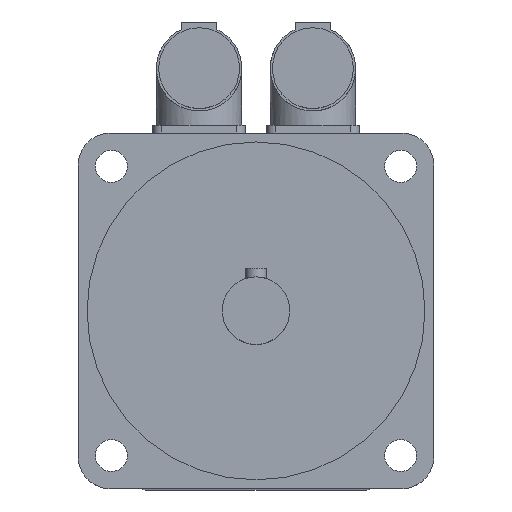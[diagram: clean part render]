
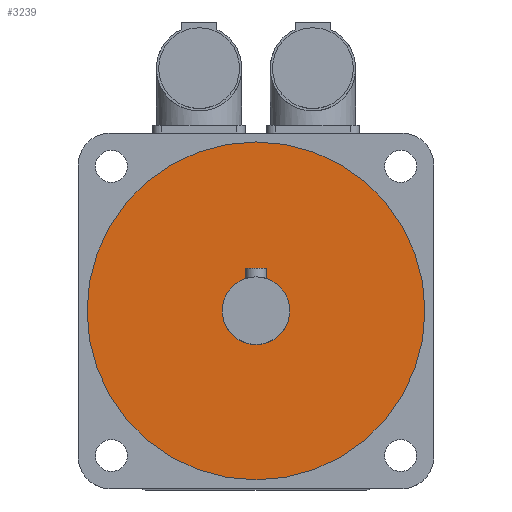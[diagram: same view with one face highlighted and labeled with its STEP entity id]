
A CAD part, top view. The second image highlights one B-rep face of the part: STEP entity #3239.
In plain terms, the highlighted planar face has unit normal (0, 0, 1).
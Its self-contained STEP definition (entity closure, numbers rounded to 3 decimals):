
#36=FACE_BOUND('',#567,.T.);
#71=PLANE('',#3478);
#182=CIRCLE('',#3473,9.5);
#183=CIRCLE('',#3476,47.5);
#368=FACE_OUTER_BOUND('',#566,.T.);
#566=EDGE_LOOP('',(#2309));
#567=EDGE_LOOP('',(#2310));
#1393=VERTEX_POINT('',#5230);
#1394=VERTEX_POINT('',#5234);
#1743=EDGE_CURVE('',#1393,#1393,#182,.T.);
#1744=EDGE_CURVE('',#1394,#1394,#183,.T.);
#2309=ORIENTED_EDGE('',*,*,#1744,.T.);
#2310=ORIENTED_EDGE('',*,*,#1743,.T.);
#3239=ADVANCED_FACE('',(#368,#36),#71,.F.);
#3473=AXIS2_PLACEMENT_3D('',#5231,#3962,#3963);
#3476=AXIS2_PLACEMENT_3D('',#5235,#3968,#3969);
#3478=AXIS2_PLACEMENT_3D('',#5238,#3972,#3973);
#3962=DIRECTION('center_axis',(0.,0.,-1.));
#3963=DIRECTION('ref_axis',(-1.,0.,0.));
#3968=DIRECTION('center_axis',(0.,0.,
1.));
#3969=DIRECTION('ref_axis',(-1.,0.,0.));
#3972=DIRECTION('center_axis',(0.,0.,-1.));
#3973=DIRECTION('ref_axis',(-1.,0.,0.));
#5230=CARTESIAN_POINT('',(9.5,0.,182.));
#5231=CARTESIAN_POINT('Origin',(0.,0.,
182.));
#5234=CARTESIAN_POINT('',(47.5,0.,182.));
#5235=CARTESIAN_POINT('Origin',(0.,0.,
182.));
#5238=CARTESIAN_POINT('Origin',(0.,0.,
182.));
